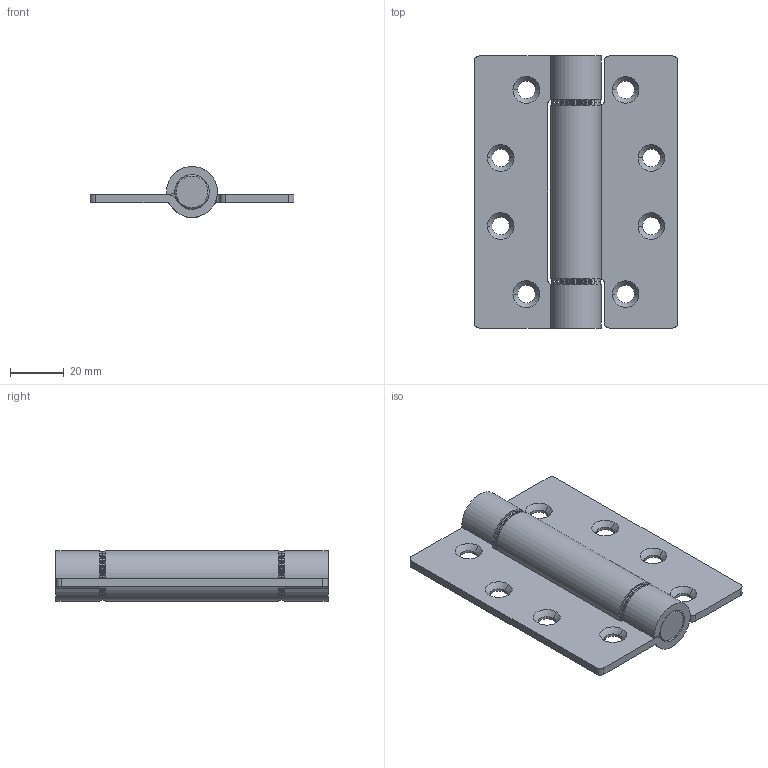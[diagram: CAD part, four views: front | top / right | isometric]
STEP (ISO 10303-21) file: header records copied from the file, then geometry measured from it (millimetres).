
FILE_DESCRIPTION((''),'2;1');
FILE_NAME('3SJ_CL158-5_0001_ASM','2016-07-13T',('master'),(''),'PRO/ENGINEER BY PARAMETRIC TECHNOLOGY CORPORATION, 2009060','PRO/ENGINEER BY PARAMETRIC TECHNOLOGY CORPORATION, 2009060','');
FILE_SCHEMA(('CONFIG_CONTROL_DESIGN'));
Length unit declared in the file: millimetre
Products named in the file (9): 8SJ_CL158-5_0450; 8SJ_CL158-5_0460; 8SJ_CL158-4_0590; 8SJ_CL158-4_0090; 8SJ_CL158-4_0091; 8SJ_CL158-4_0750; 8SJ_CL158-4_0570; 8SJ_CL158-4_0710; 3SJ_CL158-5_0001_ASM
Assembly tree (11 placements, depth 2):
  3SJ_CL158-5_0001_ASM
    8SJ_CL158-5_0450
    8SJ_CL158-5_0460
    8SJ_CL158-4_0590  x4
    8SJ_CL158-4_0090
    8SJ_CL158-4_0091
    8SJ_CL158-4_0750
    8SJ_CL158-4_0570
    8SJ_CL158-4_0710
Bounding box: 76 x 101.5 x 18.98 mm (x, y, z)
Volume: 38617.8 mm3; surface area: 32564.2 mm2
Topology: 11 solids, 11 shells, 348 faces, 883 edges, 559 vertices
Faces by surface type: plane 150, cylinder 84, cone 52, torus 40, bspline 22
Entity records: 15141 total; most frequent: CARTESIAN_POINT 7752, ORIENTED_EDGE 1534, DIRECTION 1469, EDGE_CURVE 767, AXIS2_PLACEMENT_3D 535, VERTEX_POINT 493, VECTOR 399, LINE 399
